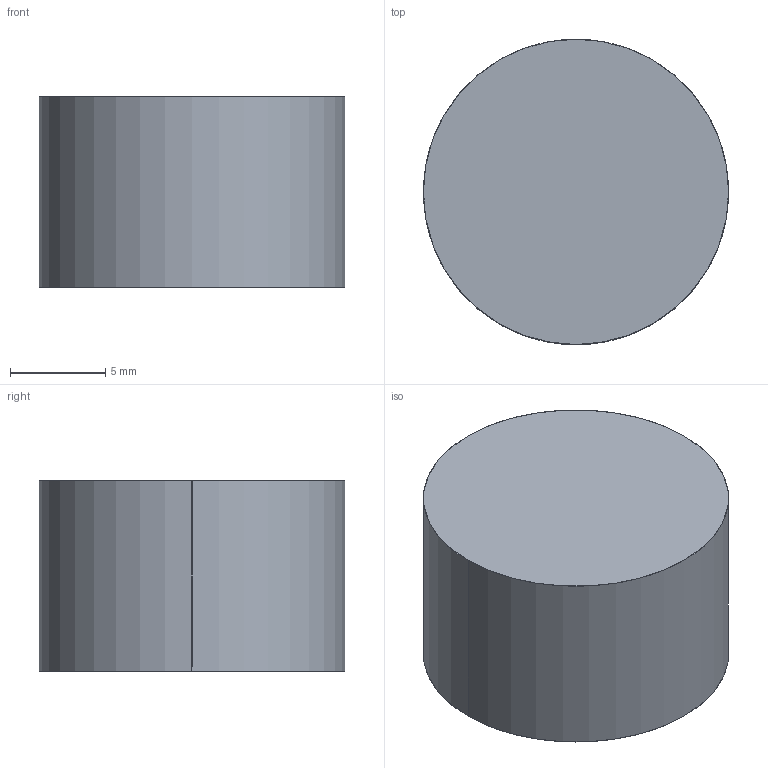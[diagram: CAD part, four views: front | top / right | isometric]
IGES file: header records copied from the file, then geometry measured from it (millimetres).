
Start section: SolidWorks IGES file using analytic representation for surfaces
Global section: file name: X:\11_SW2020-Inv2020\00_全2021-11新製品まで\d\DRP-160\drp-160.IGS; native system: SolidWorks 2020; preprocessor: SolidWorks 2020; author: ImaoCorp; date: 211021.165250; units: millimetre
Bounding box: 16 x 16 x 10 mm (x, y, z)
Surface area: 999 mm2 (no closed solid volume)
Topology: 0 solids, 0 shells, 7 faces, 144 edges, 144 vertices
Faces by surface type: revolution 4, bspline 3
